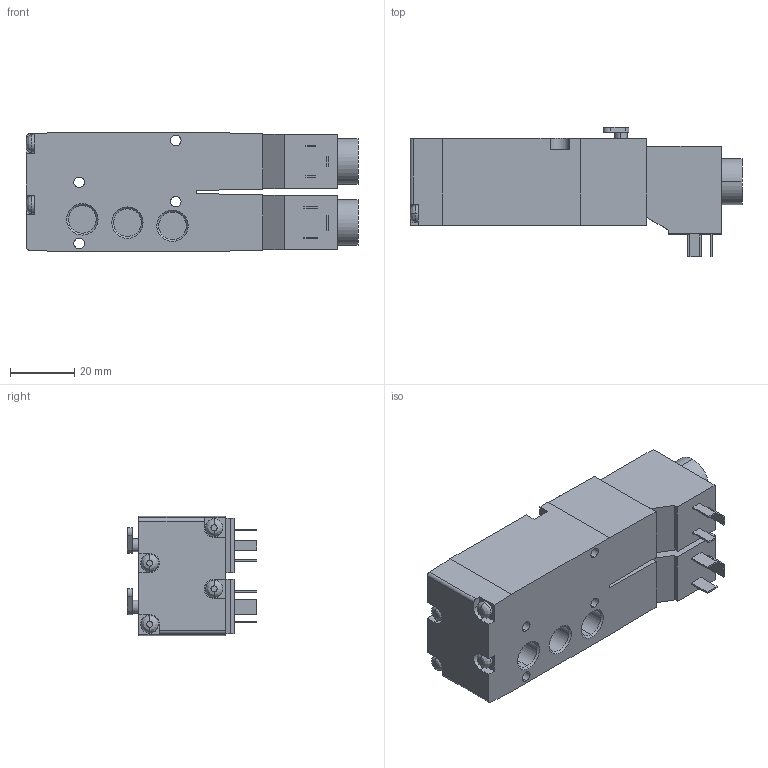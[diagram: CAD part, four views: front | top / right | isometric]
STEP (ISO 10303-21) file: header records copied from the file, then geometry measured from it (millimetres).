
FILE_DESCRIPTION (( 'STEP AP203' ), '1' );
FILE_NAME ('VB5212-5D-01.STEP', '2021-11-26T10:49:30', ( '' ), ( '' ), 'SwSTEP 2.0', 'SolidWorks 2019', '' );
FILE_SCHEMA (( 'CONFIG_CONTROL_DESIGN' ));
Length unit declared in the file: millimetre
Products named in the file (1): VB5212-5D-01
Bounding box: 103.1 x 40.1 x 37 mm (x, y, z)
Volume: 91502.6 mm3; surface area: 20170.1 mm2
Topology: 1 solids, 1 shells, 182 faces, 433 edges, 278 vertices
Faces by surface type: plane 101, cylinder 53, cone 20, bspline 8
Entity records: 5512 total; most frequent: CARTESIAN_POINT 1134, DIRECTION 909, ORIENTED_EDGE 866, EDGE_CURVE 433, AXIS2_PLACEMENT_3D 309, VECTOR 291, LINE 291, VERTEX_POINT 278
